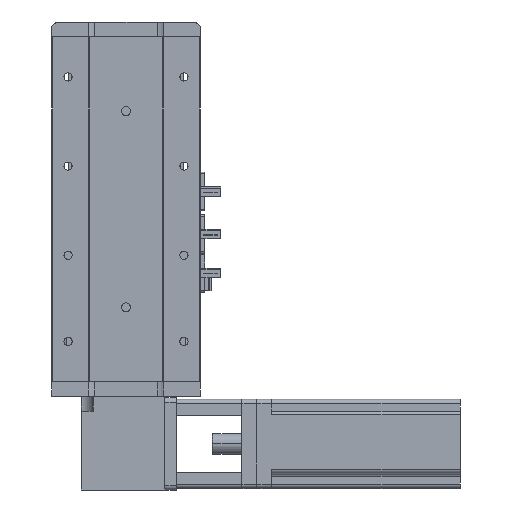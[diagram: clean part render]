
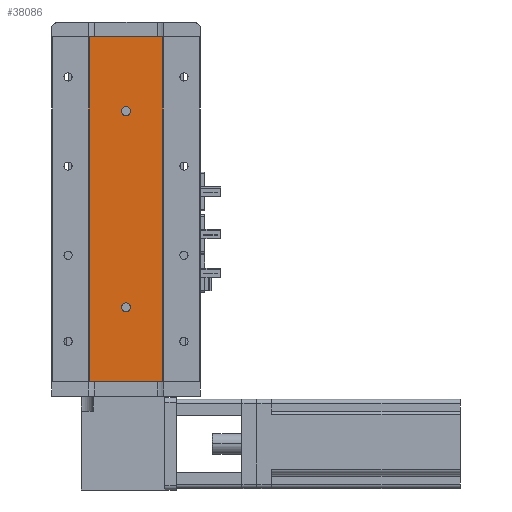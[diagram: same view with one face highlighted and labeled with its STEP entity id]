
A CAD part, left-side view. The second image highlights one B-rep face of the part: STEP entity #38086.
In plain terms, the highlighted planar face has unit normal (-1, 0, 0).
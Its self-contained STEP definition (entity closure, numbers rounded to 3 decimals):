
#139 = VECTOR ( 'NONE', #25520, 1000. ) ;
#518 = CARTESIAN_POINT ( 'NONE',  ( -18.926, 24.785, 232. ) ) ;
#1800 = EDGE_LOOP ( 'NONE', ( #40705, #27783 ) ) ;
#2215 = VERTEX_POINT ( 'NONE', #36594 ) ;
#2452 = EDGE_CURVE ( 'NONE', #22310, #15209, #5085, .T. ) ;
#2727 = AXIS2_PLACEMENT_3D ( 'NONE', #9609, #32873, #12984 ) ;
#2972 = VERTEX_POINT ( 'NONE', #28388 ) ;
#3193 = DIRECTION ( 'NONE',  ( 0., 0., -1. ) ) ;
#3607 = EDGE_CURVE ( 'NONE', #2972, #35312, #12476, .T. ) ;
#3792 = ORIENTED_EDGE ( 'NONE', *, *, #28941, .F. ) ;
#4294 = FACE_BOUND ( 'NONE', #40951, .T. ) ;
#4962 = CARTESIAN_POINT ( 'NONE',  ( -18.926, 24.785, 232. ) ) ;
#5085 = LINE ( 'NONE', #4962, #12835 ) ;
#6398 = PLANE ( 'NONE',  #33701 ) ;
#7932 = AXIS2_PLACEMENT_3D ( 'NONE', #35367, #15476, #38725 ) ;
#8328 = EDGE_LOOP ( 'NONE', ( #27210, #3792, #25510, #20468 ) ) ;
#9330 = DIRECTION ( 'NONE',  ( -1., 0., 0. ) ) ;
#9452 = EDGE_CURVE ( 'NONE', #15209, #39115, #26651, .T. ) ;
#9609 = CARTESIAN_POINT ( 'NONE',  ( -18.926, 0., 50. ) ) ;
#9711 = DIRECTION ( 'NONE',  ( 0., -1., 0. ) ) ;
#11019 = FACE_OUTER_BOUND ( 'NONE', #8328, .T. ) ;
#12061 = FACE_BOUND ( 'NONE', #1800, .T. ) ;
#12476 = CIRCLE ( 'NONE', #2727, 3. ) ;
#12835 = VECTOR ( 'NONE', #24841, 1000. ) ;
#12984 = DIRECTION ( 'NONE',  ( 0., 0., 1. ) ) ;
#13164 = CIRCLE ( 'NONE', #25096, 3. ) ;
#13530 = VECTOR ( 'NONE', #9711, 1000. ) ;
#13549 = CARTESIAN_POINT ( 'NONE',  ( -18.926, 0., 182. ) ) ;
#15209 = VERTEX_POINT ( 'NONE', #22302 ) ;
#15476 = DIRECTION ( 'NONE',  ( -1., 0., 0. ) ) ;
#16348 = CARTESIAN_POINT ( 'NONE',  ( -18.926, 0., 179. ) ) ;
#16532 = DIRECTION ( 'NONE',  ( 0., 0., -1. ) ) ;
#16905 = DIRECTION ( 'NONE',  ( 0., 0., 1. ) ) ;
#17419 = EDGE_CURVE ( 'NONE', #32726, #17766, #23689, .T. ) ;
#17766 = VERTEX_POINT ( 'NONE', #29730 ) ;
#19040 = CARTESIAN_POINT ( 'NONE',  ( -18.926, 24.785, 0. ) ) ;
#20468 = ORIENTED_EDGE ( 'NONE', *, *, #2452, .T. ) ;
#20982 = CIRCLE ( 'NONE', #7932, 3. ) ;
#22302 = CARTESIAN_POINT ( 'NONE',  ( -18.926, 24.785, 0. ) ) ;
#22310 = VERTEX_POINT ( 'NONE', #518 ) ;
#23114 = DIRECTION ( 'NONE',  ( 1., 0., 0. ) ) ;
#23118 = EDGE_CURVE ( 'NONE', #35312, #2972, #20982, .T. ) ;
#23279 = ORIENTED_EDGE ( 'NONE', *, *, #23118, .F. ) ;
#23689 = CIRCLE ( 'NONE', #28783, 3. ) ;
#24841 = DIRECTION ( 'NONE',  ( 0., 0., -1. ) ) ;
#25096 = AXIS2_PLACEMENT_3D ( 'NONE', #13549, #36769, #16905 ) ;
#25349 = ORIENTED_EDGE ( 'NONE', *, *, #3607, .F. ) ;
#25510 = ORIENTED_EDGE ( 'NONE', *, *, #35040, .F. ) ;
#25520 = DIRECTION ( 'NONE',  ( 0., -1., 0. ) ) ;
#26651 = LINE ( 'NONE', #19040, #139 ) ;
#27210 = ORIENTED_EDGE ( 'NONE', *, *, #9452, .T. ) ;
#27724 = CARTESIAN_POINT ( 'NONE',  ( -18.926, 0., 53. ) ) ;
#27783 = ORIENTED_EDGE ( 'NONE', *, *, #17419, .F. ) ;
#28388 = CARTESIAN_POINT ( 'NONE',  ( -18.926, 0., 47. ) ) ;
#28783 = AXIS2_PLACEMENT_3D ( 'NONE', #29267, #9330, #32586 ) ;
#28941 = EDGE_CURVE ( 'NONE', #2215, #39115, #39509, .T. ) ;
#29267 = CARTESIAN_POINT ( 'NONE',  ( -18.926, 0., 182. ) ) ;
#29465 = CARTESIAN_POINT ( 'NONE',  ( -18.926, -24.785, 232. ) ) ;
#29640 = CARTESIAN_POINT ( 'NONE',  ( -18.926, 24.785, 232. ) ) ;
#29730 = CARTESIAN_POINT ( 'NONE',  ( -18.926, 0., 185. ) ) ;
#30682 = VECTOR ( 'NONE', #16532, 1000. ) ;
#32586 = DIRECTION ( 'NONE',  ( 0., 0., 1. ) ) ;
#32726 = VERTEX_POINT ( 'NONE', #16348 ) ;
#32873 = DIRECTION ( 'NONE',  ( -1., 0., 0. ) ) ;
#33701 = AXIS2_PLACEMENT_3D ( 'NONE', #42978, #23114, #3193 ) ;
#35040 = EDGE_CURVE ( 'NONE', #22310, #2215, #40055, .T. ) ;
#35312 = VERTEX_POINT ( 'NONE', #27724 ) ;
#35367 = CARTESIAN_POINT ( 'NONE',  ( -18.926, 0., 50. ) ) ;
#36594 = CARTESIAN_POINT ( 'NONE',  ( -18.926, -24.785, 232. ) ) ;
#36769 = DIRECTION ( 'NONE',  ( -1., 0., 0. ) ) ;
#37541 = EDGE_CURVE ( 'NONE', #17766, #32726, #13164, .T. ) ;
#38086 = ADVANCED_FACE ( 'NONE', ( #4294, #12061, #11019 ), #6398, .F. ) ;
#38725 = DIRECTION ( 'NONE',  ( 0., 0., 1. ) ) ;
#39115 = VERTEX_POINT ( 'NONE', #39539 ) ;
#39509 = LINE ( 'NONE', #29465, #30682 ) ;
#39539 = CARTESIAN_POINT ( 'NONE',  ( -18.926, -24.785, 0. ) ) ;
#40055 = LINE ( 'NONE', #29640, #13530 ) ;
#40705 = ORIENTED_EDGE ( 'NONE', *, *, #37541, .F. ) ;
#40951 = EDGE_LOOP ( 'NONE', ( #23279, #25349 ) ) ;
#42978 = CARTESIAN_POINT ( 'NONE',  ( -18.926, 24.785, 232. ) ) ;
